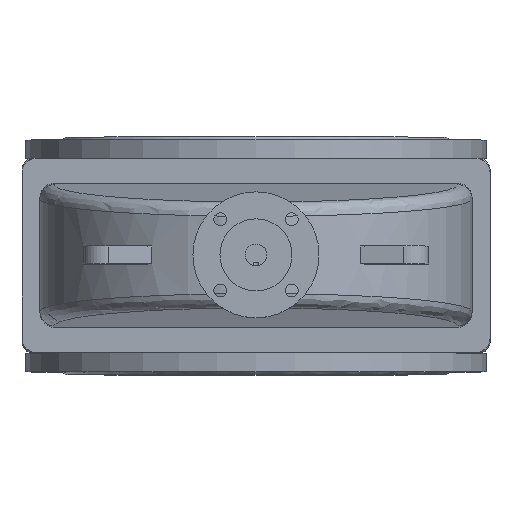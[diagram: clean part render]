
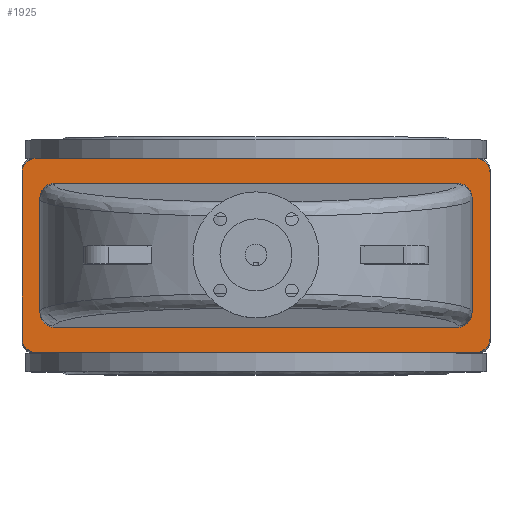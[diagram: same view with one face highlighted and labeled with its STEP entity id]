
A CAD part, top view. The second image highlights one B-rep face of the part: STEP entity #1925.
In plain terms, the highlighted planar face has unit normal (0, 0, 1).
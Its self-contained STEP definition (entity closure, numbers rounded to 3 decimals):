
#1925=ADVANCED_FACE('',(#5581,#5583),#5585,.T.);
#5581=FACE_BOUND('',#5582,.T.);
#5582=EDGE_LOOP('',(#7781,#7782,#7783,#7784,#7785,#7786,#7787,#7788));
#5583=FACE_BOUND('',#5584,.T.);
#5584=EDGE_LOOP('',(#7789,#7790,#7791,#7792,#7793,#7794,#7795,#7796));
#5585=PLANE('',#5586);
#5586=AXIS2_PLACEMENT_3D('',#5587,#5588,#5589);
#5587=CARTESIAN_POINT('',(0.,0.,516.));
#5588=DIRECTION('',(0.,-0.,1.));
#5589=DIRECTION('',(0.,1.,0.));
#7781=ORIENTED_EDGE('',*,*,#8561,.F.);
#7782=ORIENTED_EDGE('',*,*,#8574,.T.);
#7783=ORIENTED_EDGE('',*,*,#8573,.F.);
#7784=ORIENTED_EDGE('',*,*,#8571,.T.);
#7785=ORIENTED_EDGE('',*,*,#8569,.F.);
#7786=ORIENTED_EDGE('',*,*,#8567,.T.);
#7787=ORIENTED_EDGE('',*,*,#8565,.F.);
#7788=ORIENTED_EDGE('',*,*,#8562,.T.);
#7789=ORIENTED_EDGE('',*,*,#8575,.F.);
#7790=ORIENTED_EDGE('',*,*,#8576,.F.);
#7791=ORIENTED_EDGE('',*,*,#8577,.F.);
#7792=ORIENTED_EDGE('',*,*,#8578,.F.);
#7793=ORIENTED_EDGE('',*,*,#8579,.F.);
#7794=ORIENTED_EDGE('',*,*,#8580,.F.);
#7795=ORIENTED_EDGE('',*,*,#8581,.F.);
#7796=ORIENTED_EDGE('',*,*,#8582,.F.);
#8561=EDGE_CURVE('',#9679,#9677,#9681,.F.);
#8562=EDGE_CURVE('',#9682,#9677,#9683,.T.);
#8565=EDGE_CURVE('',#9682,#9685,#9687,.F.);
#8567=EDGE_CURVE('',#9688,#9685,#9690,.T.);
#8569=EDGE_CURVE('',#9688,#9691,#9693,.F.);
#8571=EDGE_CURVE('',#9694,#9691,#9696,.T.);
#8573=EDGE_CURVE('',#9694,#9697,#9699,.F.);
#8574=EDGE_CURVE('',#9679,#9697,#9700,.T.);
#8575=EDGE_CURVE('',#9701,#9702,#9703,.F.);
#8576=EDGE_CURVE('',#9704,#9701,#9705,.T.);
#8577=EDGE_CURVE('',#9706,#9704,#9707,.T.);
#8578=EDGE_CURVE('',#9708,#9706,#9709,.T.);
#8579=EDGE_CURVE('',#9710,#9708,#9711,.F.);
#8580=EDGE_CURVE('',#9712,#9710,#9713,.T.);
#8581=EDGE_CURVE('',#9714,#9712,#9715,.T.);
#8582=EDGE_CURVE('',#9702,#9714,#9716,.T.);
#9677=VERTEX_POINT('',#14803);
#9679=VERTEX_POINT('',#14807);
#9681=CIRCLE('',#14811,20.);
#9682=VERTEX_POINT('',#14815);
#9683=LINE('',#14816,#14817);
#9685=VERTEX_POINT('',#14822);
#9687=CIRCLE('',#14826,20.);
#9688=VERTEX_POINT('',#14830);
#9690=LINE('',#14834,#14835);
#9691=VERTEX_POINT('',#14837);
#9693=CIRCLE('',#14841,20.);
#9694=VERTEX_POINT('',#14845);
#9696=LINE('',#14849,#14850);
#9697=VERTEX_POINT('',#14852);
#9699=CIRCLE('',#14856,20.);
#9700=LINE('',#14860,#14861);
#9701=VERTEX_POINT('',#14863);
#9702=VERTEX_POINT('',#14864);
#9703=(BOUNDED_CURVE()B_SPLINE_CURVE(3,
(#14865,#14866,#14867,#14868),
.UNSPECIFIED.,.F.,.F.)B_SPLINE_CURVE_WITH_KNOTS((4,4),
(0.,1.),
.UNSPECIFIED.)CURVE()GEOMETRIC_REPRESENTATION_ITEM()RATIONAL_B_SPLINE_CURVE((1.,
0.805,0.805,1.))REPRESENTATION_ITEM(''));
#9704=VERTEX_POINT('',#14869);
#9705=LINE('',#14870,#14871);
#9706=VERTEX_POINT('',#14873);
#9707=(BOUNDED_CURVE()B_SPLINE_CURVE(3,
(#14874,#14875,#14876,#14877),
.UNSPECIFIED.,.F.,.F.)B_SPLINE_CURVE_WITH_KNOTS((4,4),
(0.,1.),
.UNSPECIFIED.)CURVE()GEOMETRIC_REPRESENTATION_ITEM()RATIONAL_B_SPLINE_CURVE((1.,
0.805,0.805,1.))REPRESENTATION_ITEM(''));
#9708=VERTEX_POINT('',#14878);
#9709=LINE('',#14879,#14880);
#9710=VERTEX_POINT('',#14882);
#9711=(BOUNDED_CURVE()B_SPLINE_CURVE(3,
(#14883,#14884,#14885,#14886),
.UNSPECIFIED.,.F.,.F.)B_SPLINE_CURVE_WITH_KNOTS((4,4),
(0.,1.),
.UNSPECIFIED.)CURVE()GEOMETRIC_REPRESENTATION_ITEM()RATIONAL_B_SPLINE_CURVE((1.,
0.805,0.805,1.))REPRESENTATION_ITEM(''));
#9712=VERTEX_POINT('',#14887);
#9713=LINE('',#14888,#14889);
#9714=VERTEX_POINT('',#14891);
#9715=(BOUNDED_CURVE()B_SPLINE_CURVE(3,
(#14892,#14893,#14894,#14895),
.UNSPECIFIED.,.F.,.F.)B_SPLINE_CURVE_WITH_KNOTS((4,4),
(0.,1.),
.UNSPECIFIED.)CURVE()GEOMETRIC_REPRESENTATION_ITEM()RATIONAL_B_SPLINE_CURVE((1.,
0.805,0.805,1.))REPRESENTATION_ITEM(''));
#9716=LINE('',#14896,#14897);
#14803=CARTESIAN_POINT('',(-325.,-115.,516.));
#14807=CARTESIAN_POINT('',(-305.,-135.,516.));
#14811=AXIS2_PLACEMENT_3D('',#14812,#14813,#14814);
#14812=CARTESIAN_POINT('',(-305.,-115.,516.));
#14813=DIRECTION('',(0.,-0.,1.));
#14814=DIRECTION('',(-1.,0.,0.));
#14815=CARTESIAN_POINT('',(-325.,115.,516.));
#14816=CARTESIAN_POINT('',(-325.,115.,516.));
#14817=VECTOR('',#14818,1.);
#14818=DIRECTION('',(0.,-1.,0.));
#14822=CARTESIAN_POINT('',(-305.,135.,516.));
#14826=AXIS2_PLACEMENT_3D('',#14827,#14828,#14829);
#14827=CARTESIAN_POINT('',(-305.,115.,516.));
#14828=DIRECTION('',(0.,-0.,1.));
#14829=DIRECTION('',(0.,1.,0.));
#14830=CARTESIAN_POINT('',(305.,135.,516.));
#14834=CARTESIAN_POINT('',(305.,135.,516.));
#14835=VECTOR('',#14836,1.);
#14836=DIRECTION('',(-1.,0.,0.));
#14837=CARTESIAN_POINT('',(325.,115.,516.));
#14841=AXIS2_PLACEMENT_3D('',#14842,#14843,#14844);
#14842=CARTESIAN_POINT('',(305.,115.,516.));
#14843=DIRECTION('',(0.,-0.,1.));
#14844=DIRECTION('',(1.,0.,0.));
#14845=CARTESIAN_POINT('',(325.,-115.,516.));
#14849=CARTESIAN_POINT('',(325.,-115.,516.));
#14850=VECTOR('',#14851,1.);
#14851=DIRECTION('',(0.,1.,0.));
#14852=CARTESIAN_POINT('',(305.,-135.,516.));
#14856=AXIS2_PLACEMENT_3D('',#14857,#14858,#14859);
#14857=CARTESIAN_POINT('',(305.,-115.,516.));
#14858=DIRECTION('',(0.,-0.,1.));
#14859=DIRECTION('',(0.,-1.,0.));
#14860=CARTESIAN_POINT('',(-305.,-135.,516.));
#14861=VECTOR('',#14862,1.);
#14862=DIRECTION('',(1.,0.,0.));
#14863=CARTESIAN_POINT('',(280.,-100.,516.));
#14864=CARTESIAN_POINT('',(300.,-79.924,516.));
#14865=CARTESIAN_POINT('',(300.,-79.924,516.));
#14866=CARTESIAN_POINT('',(300.,-91.684,516.));
#14867=CARTESIAN_POINT('',(291.716,-100.,516.));
#14868=CARTESIAN_POINT('',(280.,-100.,516.));
#14869=CARTESIAN_POINT('',(-280.,-100.,516.));
#14870=CARTESIAN_POINT('',(-280.,-100.,516.));
#14871=VECTOR('',#14872,1.);
#14872=DIRECTION('',(1.,0.,0.));
#14873=CARTESIAN_POINT('',(-300.,-79.924,516.));
#14874=CARTESIAN_POINT('',(-300.,-79.924,516.));
#14875=CARTESIAN_POINT('',(-300.,-91.684,516.));
#14876=CARTESIAN_POINT('',(-291.716,-100.,516.));
#14877=CARTESIAN_POINT('',(-280.,-100.,516.));
#14878=CARTESIAN_POINT('',(-300.,79.924,516.));
#14879=CARTESIAN_POINT('',(-300.,79.924,516.));
#14880=VECTOR('',#14881,1.);
#14881=DIRECTION('',(0.,-1.,0.));
#14882=CARTESIAN_POINT('',(-280.,100.,516.));
#14883=CARTESIAN_POINT('',(-300.,79.924,516.));
#14884=CARTESIAN_POINT('',(-300.,91.684,516.));
#14885=CARTESIAN_POINT('',(-291.716,100.,516.));
#14886=CARTESIAN_POINT('',(-280.,100.,516.));
#14887=CARTESIAN_POINT('',(280.,100.,516.));
#14888=CARTESIAN_POINT('',(280.,100.,516.));
#14889=VECTOR('',#14890,1.);
#14890=DIRECTION('',(-1.,0.,0.));
#14891=CARTESIAN_POINT('',(300.,79.924,516.));
#14892=CARTESIAN_POINT('',(300.,79.924,516.));
#14893=CARTESIAN_POINT('',(300.,91.684,516.));
#14894=CARTESIAN_POINT('',(291.716,100.,516.));
#14895=CARTESIAN_POINT('',(280.,100.,516.));
#14896=CARTESIAN_POINT('',(300.,-79.924,516.));
#14897=VECTOR('',#14898,1.);
#14898=DIRECTION('',(0.,1.,0.));
